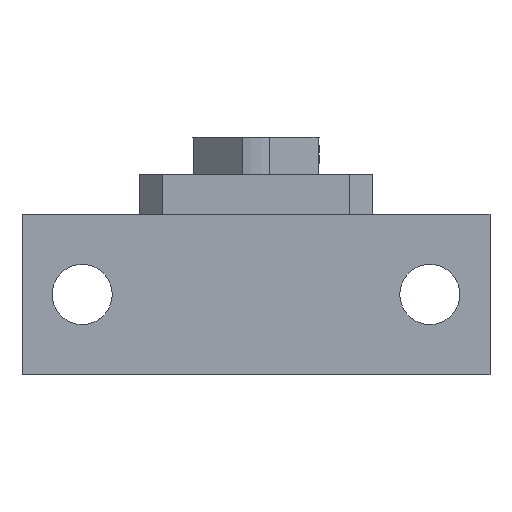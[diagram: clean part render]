
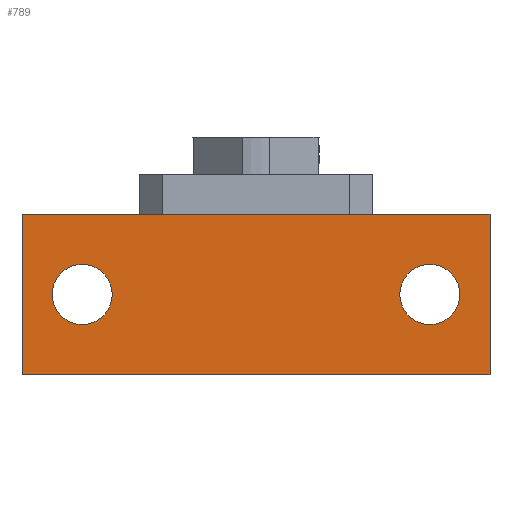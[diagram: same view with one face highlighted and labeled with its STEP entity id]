
A CAD part, front view. The second image highlights one B-rep face of the part: STEP entity #789.
In plain terms, the highlighted planar face has unit normal (0, -1, 0).
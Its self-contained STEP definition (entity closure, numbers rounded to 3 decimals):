
#33=LINE($,#1301,#103);
#73=LINE($,#1410,#143);
#81=LINE($,#1425,#151);
#82=LINE($,#1427,#152);
#103=VECTOR($,#933,70.);
#143=VECTOR($,#1051,24.);
#151=VECTOR($,#1067,24.);
#152=VECTOR($,#1070,70.);
#241=FACE_BOUND($,#312,.T.);
#242=FACE_BOUND($,#313,.T.);
#243=FACE_BOUND($,#314,.T.);
#312=EDGE_LOOP($,(#691));
#313=EDGE_LOOP($,(#692));
#314=EDGE_LOOP($,(#693,#694,#695,#696));
#337=CIRCLE($,#851,4.5);
#339=CIRCLE($,#854,4.5);
#380=VERTEX_POINT($,#1298);
#381=VERTEX_POINT($,#1300);
#407=VERTEX_POINT($,#1399);
#409=VERTEX_POINT($,#1404);
#411=VERTEX_POINT($,#1409);
#414=VERTEX_POINT($,#1423);
#456=EDGE_CURVE($,#381,#380,#33,.T.);
#501=EDGE_CURVE($,#407,#407,#337,.T.);
#503=EDGE_CURVE($,#409,#409,#339,.T.);
#505=EDGE_CURVE($,#381,#411,#73,.T.);
#513=EDGE_CURVE($,#380,#414,#81,.T.);
#514=EDGE_CURVE($,#411,#414,#82,.T.);
#691=ORIENTED_EDGE($,*,*,#501,.T.);
#692=ORIENTED_EDGE($,*,*,#503,.T.);
#693=ORIENTED_EDGE($,*,*,#456,.T.);
#694=ORIENTED_EDGE($,*,*,#513,.T.);
#695=ORIENTED_EDGE($,*,*,#514,.F.);
#696=ORIENTED_EDGE($,*,*,#505,.F.);
#744=PLANE($,#861);
#789=ADVANCED_FACE($,(#241,#242,#243),#744,.T.);
#851=AXIS2_PLACEMENT_3D($,#1400,#1039,#1040);
#854=AXIS2_PLACEMENT_3D($,#1405,#1045,#1046);
#861=AXIS2_PLACEMENT_3D($,#1426,#1068,#1069);
#933=DIRECTION($,(1.,0.,0.));
#1039=DIRECTION('center_axis',(0.,1.,0.));
#1040=DIRECTION('ref_axis',(1.,0.,0.));
#1045=DIRECTION('center_axis',(0.,1.,0.));
#1046=DIRECTION('ref_axis',(1.,0.,0.));
#1051=DIRECTION($,(0.,0.,1.));
#1067=DIRECTION($,(0.,0.,1.));
#1068=DIRECTION('center_axis',(0.,-1.,0.));
#1069=DIRECTION('ref_axis',(1.,0.,0.));
#1070=DIRECTION($,(1.,0.,0.));
#1298=CARTESIAN_POINT('',(70.,0.,0.));
#1300=CARTESIAN_POINT('',(0.,0.,0.));
#1301=CARTESIAN_POINT($,(0.,0.,0.));
#1399=CARTESIAN_POINT('',(4.5,0.,12.));
#1400=CARTESIAN_POINT('Origin',(9.,0.,12.));
#1404=CARTESIAN_POINT('',(56.5,0.,12.));
#1405=CARTESIAN_POINT('Origin',(61.,0.,12.));
#1409=CARTESIAN_POINT('',(0.,0.,24.));
#1410=CARTESIAN_POINT($,(0.,0.,0.));
#1423=CARTESIAN_POINT('',(70.,0.,24.));
#1425=CARTESIAN_POINT($,(70.,0.,0.));
#1426=CARTESIAN_POINT('Origin',(0.,0.,0.));
#1427=CARTESIAN_POINT($,(0.,0.,24.));
